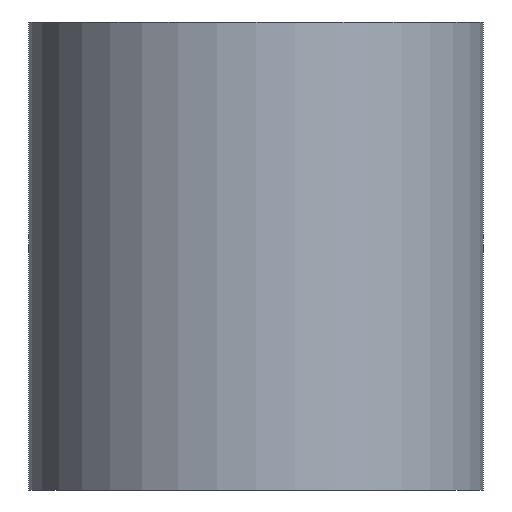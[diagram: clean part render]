
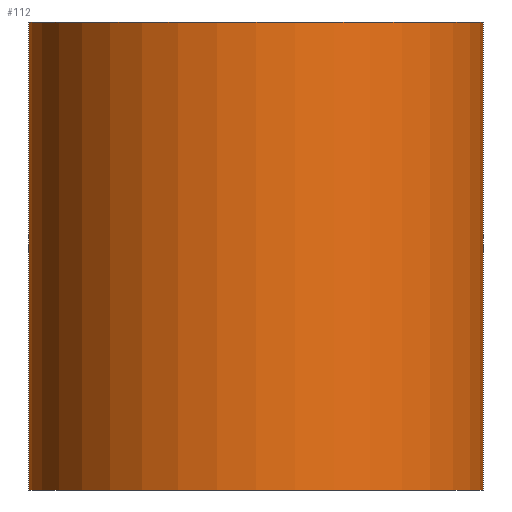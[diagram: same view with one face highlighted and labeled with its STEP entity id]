
A CAD part, front view. The second image highlights one B-rep face of the part: STEP entity #112.
In plain terms, the highlighted cylindrical face has radius 17 mm (diameter 34 mm), a partial arc.
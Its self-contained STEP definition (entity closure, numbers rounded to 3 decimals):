
#112=ADVANCED_FACE('',(#125),#119,.T.);
#119=CYLINDRICAL_SURFACE('',#254,17.);
#125=FACE_OUTER_BOUND('',#135,.T.);
#135=EDGE_LOOP('',(#177,#178,#179,#180));
#149=CIRCLE('',#250,17.);
#151=CIRCLE('',#253,17.);
#177=ORIENTED_EDGE('',*,*,#221,.T.);
#178=ORIENTED_EDGE('',*,*,#222,.F.);
#179=ORIENTED_EDGE('',*,*,#223,.F.);
#180=ORIENTED_EDGE('',*,*,#219,.T.);
#203=VERTEX_POINT('',#344);
#204=VERTEX_POINT('',#345);
#205=VERTEX_POINT('',#349);
#206=VERTEX_POINT('',#351);
#219=EDGE_CURVE('',#203,#204,#149,.T.);
#221=EDGE_CURVE('',#204,#205,#231,.T.);
#222=EDGE_CURVE('',#206,#205,#151,.T.);
#223=EDGE_CURVE('',#203,#206,#232,.T.);
#231=LINE('',#348,#235);
#232=LINE('',#352,#236);
#235=VECTOR('',#298,1.);
#236=VECTOR('',#301,1.);
#250=AXIS2_PLACEMENT_3D('',#343,#292,#293);
#253=AXIS2_PLACEMENT_3D('',#350,#299,#300);
#254=AXIS2_PLACEMENT_3D('',#353,#302,#303);
#292=DIRECTION('',(0.,0.,1.));
#293=DIRECTION('',(0.,1.,0.));
#298=DIRECTION('',(0.,0.,1.));
#299=DIRECTION('',(0.,0.,1.));
#300=DIRECTION('',(0.,1.,0.));
#301=DIRECTION('',(0.,0.,1.));
#302=DIRECTION('',(0.,0.,1.));
#303=DIRECTION('',(0.,-1.,0.));
#343=CARTESIAN_POINT('',(0.,0.,-35.));
#344=CARTESIAN_POINT('',(-17.,0.,-35.));
#345=CARTESIAN_POINT('',(17.,0.,-35.));
#348=CARTESIAN_POINT('',(17.,0.,0.));
#349=CARTESIAN_POINT('',(17.,0.,0.));
#350=CARTESIAN_POINT('',(0.,0.,0.));
#351=CARTESIAN_POINT('',(-17.,0.,0.));
#352=CARTESIAN_POINT('',(-17.,0.,0.));
#353=CARTESIAN_POINT('',(0.,0.,-35.));
